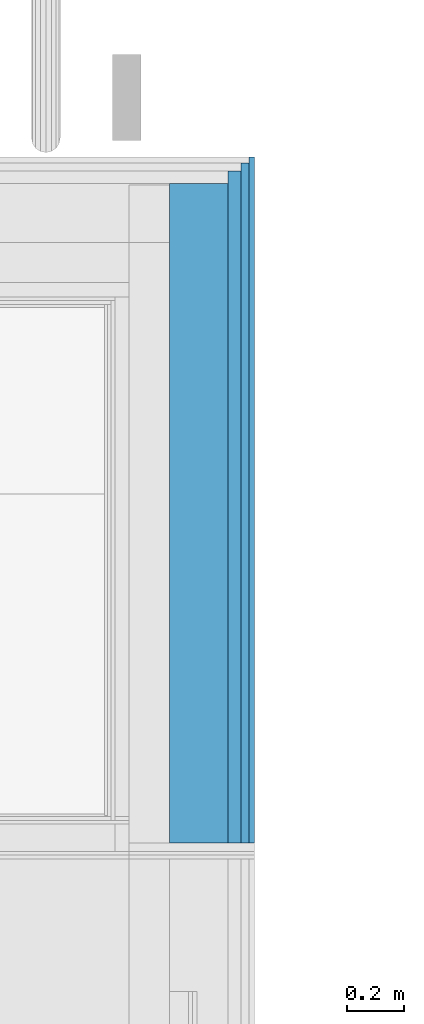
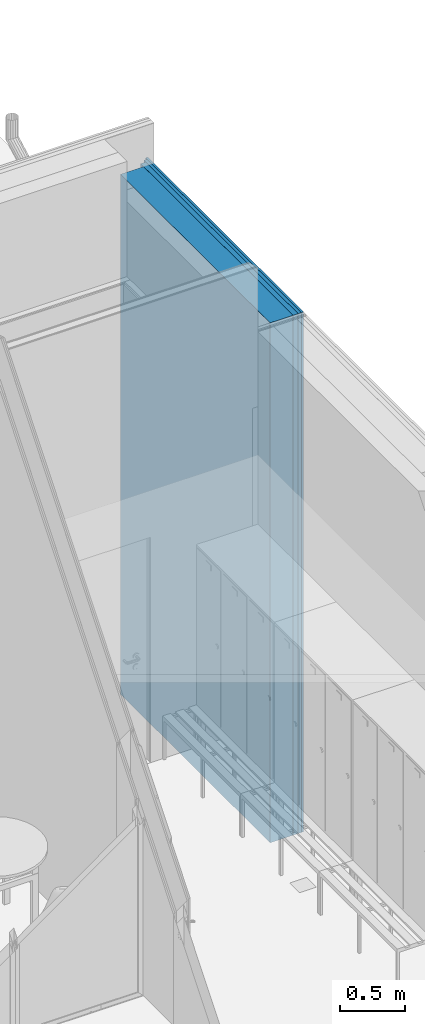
# One storey, part 92 of 153: 4 building element parts, 1 element without a shape of its own.
"""IFC2X3 building model written with IfcOpenShell, lengths in millimetres."""

from ifc_helpers import new_model, entity, si_unit, converted_unit, derived_unit, money_unit, direction, frame, origin_with_axes, place, context, subcontext, project, spatial, faceted_brep, material, type_object, element, aggregate, save


model = new_model("IFC2X3")

# Units and contexts
model_context = context("Model", 3, precision=0.01, world=origin_with_axes(), true_north=direction((0.0, 1.0)))
body_context = subcontext(model_context, "Body", "Model", "MODEL_VIEW")
ifc_project = project(units=[si_unit("LENGTHUNIT", "METRE", prefix="MILLI"), si_unit("AREAUNIT", "SQUARE_METRE"), si_unit("VOLUMEUNIT", "CUBIC_METRE"), converted_unit("PLANEANGLEUNIT", "DEGREE", entity("IfcPlaneAngleMeasure", 0.0174532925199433), si_unit("PLANEANGLEUNIT", "RADIAN"), dimensions=[0, 0, 0, 0, 0, 0, 0]), money_unit("EUR"), converted_unit("TIMEUNIT", "Year", entity("IfcTimeMeasure", 31557600.0), si_unit("TIMEUNIT", "SECOND"), dimensions=[0, 0, 1, 0, 0, 0, 0]), si_unit("MASSUNIT", "GRAM", prefix="KILO"), si_unit("THERMODYNAMICTEMPERATUREUNIT", "DEGREE_CELSIUS"), si_unit("LUMINOUSINTENSITYUNIT", "LUMEN"), si_unit("ENERGYUNIT", "JOULE", prefix="MEGA"), derived_unit("THERMALCONDUCTANCEUNIT", [(si_unit("POWERUNIT", "WATT"), 1), (si_unit("LENGTHUNIT", "METRE"), -1), (si_unit("THERMODYNAMICTEMPERATUREUNIT", "KELVIN"), -1)]), derived_unit("SPECIFICHEATCAPACITYUNIT", [(si_unit("ENERGYUNIT", "JOULE"), 1), (si_unit("MASSUNIT", "GRAM", prefix="KILO"), -1), (si_unit("THERMODYNAMICTEMPERATUREUNIT", "KELVIN"), -1)]), derived_unit("MASSDENSITYUNIT", [(si_unit("MASSUNIT", "GRAM", prefix="KILO"), 1), (si_unit("VOLUMEUNIT", "CUBIC_METRE"), -1)])], contexts=[model_context])

# Site, building, storey
site_placement = place(None, frame((0.0, 0.0, 8650.0), z_axis=(0.0, 0.0, 1.0), x_axis=(1.0, 0.0, 0.0)))
site = spatial("IfcSite", under=ifc_project, at=site_placement, Name="43301:001:0844", CompositionType="ELEMENT")
building_placement = place(site_placement, origin_with_axes())
building = spatial("IfcBuilding", under=site, at=building_placement, Name="Kuressaare Ametikooli tuulikute mehaanikute õppekorpus", CompositionType="ELEMENT")
storey_placement = place(building_placement, frame((0.0, 0.0, 4100.0), z_axis=(0.0, 0.0, 1.0), x_axis=(1.0, 0.0, 0.0)))
storey = spatial("IfcBuildingStorey", under=building, at=storey_placement, Name="2.korrus", CompositionType="ELEMENT", Elevation=4100.0)

# Wall, building element parts
wall_type = type_object("IfcWallType", Name="VS1 437", PredefinedType="NOTDEFINED")
wall_placement = place(storey_placement, frame((133024.9464416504, 26292.98866271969, -1166.360763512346), z_axis=(0.0, 0.0, 1.0), x_axis=(0.0, 1.0, 0.0)))
wall = element("IfcWall", 1, at=wall_placement, inside=storey, type_object=wall_type, Name="Välissein")
ifc_material_1 = material(Name="Air Space - Frame")
building_element_part_1_placement = place(wall_placement, origin_with_axes())
building_element_part_1 = element("IfcBuildingElementPart", 2, at=building_element_part_1_placement, material=ifc_material_1, Name="Air Space - Frame", context=body_context, shape_type="Brep", body=[
    faceted_brep([(2340.080261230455, -389.00000000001, 0.0), (0.0, -389.00000000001, 0.0), (0.0, -344.9999999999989, 0.0), (2340.080261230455, -344.9999999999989, 0.0), (2340.080261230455, -389.00000000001, 4866.360763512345), (0.0, -389.00000000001, 4866.360763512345), (0.0, -344.9999999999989, 4866.360763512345), (2340.080261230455, -344.9999999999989, 4866.360763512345)], [[[0, 1, 2, 3]], [[4, 5, 1, 0]], [[2, 1, 5, 6]], [[3, 2, 6, 7]], [[3, 7, 4, 0]], [[7, 6, 5, 4]]]),
])
building_element_part_2_placement = place(wall_placement, origin_with_axes())
building_element_part_2 = element("IfcBuildingElementPart", 3, at=building_element_part_2_placement, material=ifc_material_1, Name="Air Space - Frame", context=body_context, shape_type="Brep", body=[
    faceted_brep([(2368.080261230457, -417.0000000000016, 0.0), (0.0, -417.0000000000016, 0.0), (0.0, -389.00000000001, 0.0), (2368.080261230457, -389.00000000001, 0.0), (2368.080261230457, -417.0000000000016, 4866.360763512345), (0.0, -417.0000000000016, 4866.360763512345), (0.0, -389.00000000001, 4866.360763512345), (2368.080261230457, -389.00000000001, 4866.360763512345)], [[[0, 1, 2, 3]], [[4, 5, 1, 0]], [[2, 1, 5, 6]], [[3, 2, 6, 7]], [[3, 7, 4, 0]], [[7, 6, 5, 4]]]),
])
ifc_material_2 = material(Name="Soojustus - Mineraalvill jäik")
building_element_part_3_placement = place(wall_placement, origin_with_axes())
building_element_part_3 = element("IfcBuildingElementPart", 4, at=building_element_part_3_placement, material=ifc_material_2, Name="Soojustus - Mineraalvill jäik", context=body_context, shape_type="Brep", body=[
    faceted_brep([(2296.080261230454, -344.9999999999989, 0.0), (0.0, -344.9999999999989, 0.0), (0.0, -139.9999999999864, 0.0), (2296.080261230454, -139.9999999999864, 0.0), (2296.080261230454, -344.9999999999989, 4866.360763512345), (0.0, -344.9999999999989, 4866.360763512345), (0.0, -139.9999999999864, 4866.360763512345), (2296.080261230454, -139.9999999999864, 4866.360763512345)], [[[0, 1, 2, 3]], [[4, 5, 1, 0]], [[2, 1, 5, 6]], [[3, 2, 6, 7]], [[3, 7, 4, 0]], [[7, 6, 5, 4]]]),
])
ifc_material_3 = material(Name="Puit - voodrilaud")
building_element_part_4_placement = place(wall_placement, origin_with_axes())
building_element_part_4 = element("IfcBuildingElementPart", 5, at=building_element_part_4_placement, material=ifc_material_3, Name="Puit - voodrilaud", context=body_context, shape_type="Brep", body=[
    faceted_brep([(2388.080261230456, -437.0000000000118, 0.0), (0.0, -437.0000000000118, 0.0), (0.0, -417.0000000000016, 0.0), (2388.080261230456, -417.0000000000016, 0.0), (2388.080261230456, -437.0000000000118, 4866.360763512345), (0.0, -437.0000000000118, 4866.360763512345), (0.0, -417.0000000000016, 4866.360763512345), (2388.080261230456, -417.0000000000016, 4866.360763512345)], [[[0, 1, 2, 3]], [[4, 5, 1, 0]], [[2, 1, 5, 6]], [[3, 2, 6, 7]], [[3, 7, 4, 0]], [[7, 6, 5, 4]]]),
])
aggregate(wall, [building_element_part_1, building_element_part_2, building_element_part_3, building_element_part_4])

save(model, "model.ifc")
